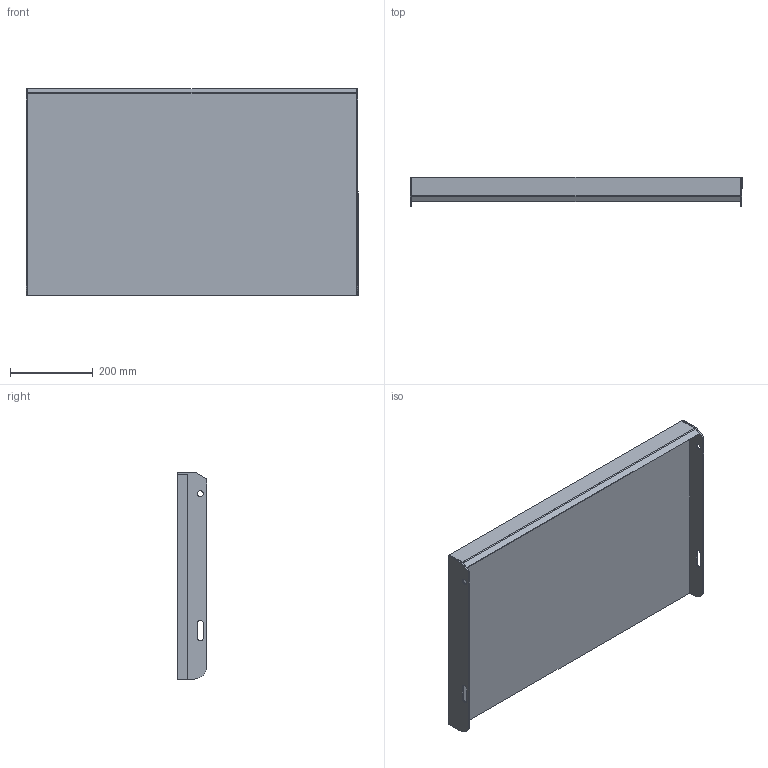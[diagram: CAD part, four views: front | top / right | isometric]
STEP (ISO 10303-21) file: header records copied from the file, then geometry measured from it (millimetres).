
FILE_DESCRIPTION (( 'STEP AP203' ), '1' );
FILE_NAME ('148808051, Plan TH6, 800x500, vfz.STEP', '2020-10-21T13:33:40', ( '' ), ( '' ), 'SwSTEP 2.0', 'SolidWorks 2019', '' );
FILE_SCHEMA (( 'CONFIG_CONTROL_DESIGN' ));
Length unit declared in the file: millimetre
Products named in the file (4): SW0000041480; 148808051, Plan TH6, 800x500, vfz; SW0000041378; SW0000041833
Assembly tree (4 placements, depth 2):
  148808051, Plan TH6, 800x500, vfz
    SW0000041833
    SW0000041378  x2
    SW0000041480
Bounding box: 800 x 70 x 497 mm (x, y, z)
Volume: 10148418.8 mm3; surface area: 1091690.1 mm2
Topology: 4 solids, 4 shells, 59 faces, 142 edges, 92 vertices
Faces by surface type: plane 45, cylinder 14
Entity records: 1693 total; most frequent: DIRECTION 221, CARTESIAN_POINT 220, ORIENTED_EDGE 206, EDGE_CURVE 103, VECTOR 87, LINE 87, AXIS2_PLACEMENT_3D 67, VERTEX_POINT 66
